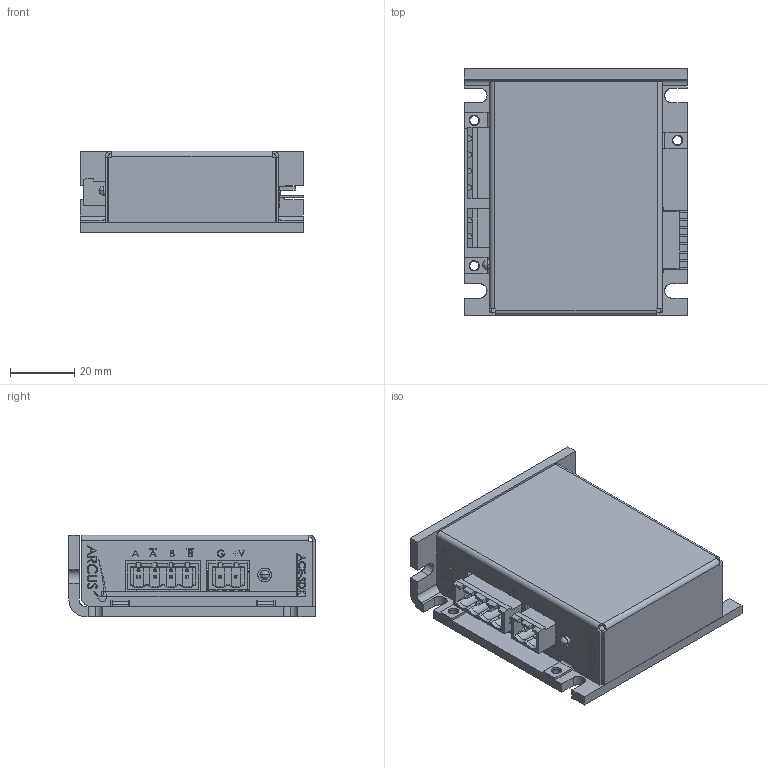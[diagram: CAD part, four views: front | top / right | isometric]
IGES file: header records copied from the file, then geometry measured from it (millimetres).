
Start section: SolidWorks IGES file using analytic representation for surfaces
Global section: file name: C:\Users\IEUser\Documents\Christine folder\Arcus\Project #27 ACE Drawings\ACE-SDX\ASSY-ACE-SDX.IGS; native system: SolidWorks 2008; preprocessor: SolidWorks 2008; author: IEUser; date: 140820.122546; units: millimetre
Bounding box: 69.85 x 76.83 x 25.4 mm (x, y, z)
Surface area: 41542.1 mm2 (no closed solid volume)
Topology: 0 solids, 0 shells, 2601 faces, 19532 edges, 19522 vertices
Faces by surface type: bspline 2419, revolution 182
